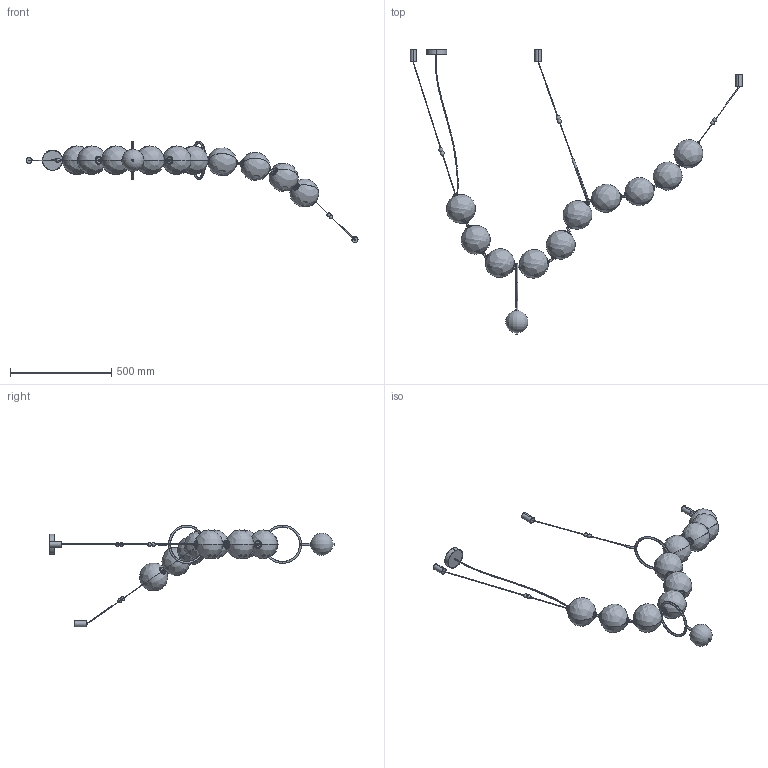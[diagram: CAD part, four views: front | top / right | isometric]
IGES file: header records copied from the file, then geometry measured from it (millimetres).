
Start section: SolidWorks IGES file using analytic representation for surfaces
Global section: file name: F:\燠隴矨\3D\12堎\Necklace LED Pendant Lamp-10Heads.IGS; native system: SolidWorks 2022; preprocessor: SolidWorks 2022; author: MyPC; date: 231207.140955; units: millimetre
Bounding box: 1643.32 x 1408.55 x 503.6 mm (x, y, z)
Surface area: 952768.7 mm2 (no closed solid volume)
Topology: 0 solids, 0 shells, 337 faces, 6670 edges, 6614 vertices
Faces by surface type: revolution 182, bspline 155
